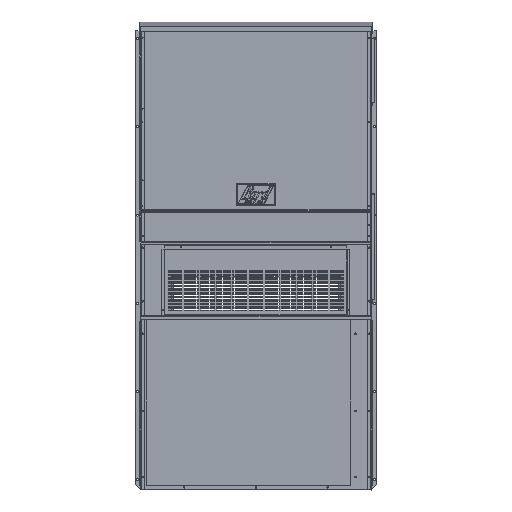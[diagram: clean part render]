
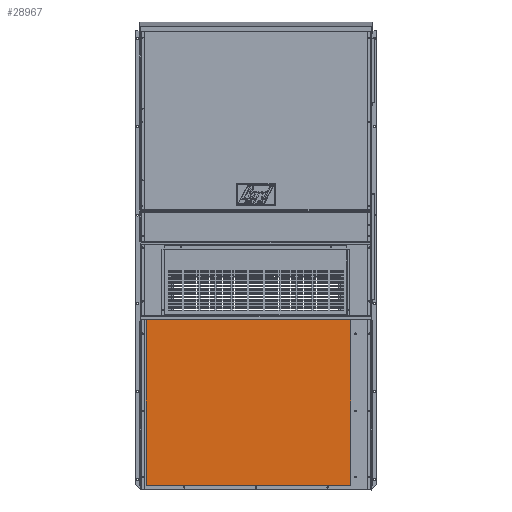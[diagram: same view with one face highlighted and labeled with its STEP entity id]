
A CAD part, top view. The second image highlights one B-rep face of the part: STEP entity #28967.
In plain terms, the highlighted planar face has unit normal (0, 0, 1).
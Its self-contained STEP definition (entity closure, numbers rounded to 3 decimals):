
#1054 = LINE ( 'NONE', #134050, #39214 ) ;
#9102 = CARTESIAN_POINT ( 'NONE',  ( -19.878, 30.855, 0.141 ) ) ;
#9571 = DIRECTION ( 'NONE',  ( 1., 0., 0. ) ) ;
#21173 = VECTOR ( 'NONE', #9571, 39.37 ) ;
#21408 = LINE ( 'NONE', #38150, #136966 ) ;
#25328 = EDGE_LOOP ( 'NONE', ( #46573, #127344, #65055, #50014 ) ) ;
#28967 = ADVANCED_FACE ( 'NONE', ( #32344 ), #64899, .F. ) ;
#32344 = FACE_OUTER_BOUND ( 'NONE', #25328, .T. ) ;
#38150 = CARTESIAN_POINT ( 'NONE',  ( -19.878, 30.855, 0.141 ) ) ;
#39214 = VECTOR ( 'NONE', #80190, 39.37 ) ;
#40066 = AXIS2_PLACEMENT_3D ( 'NONE', #64368, #64014, #63921 ) ;
#42660 = LINE ( 'NONE', #9102, #21173 ) ;
#42897 = EDGE_CURVE ( 'NONE', #128195, #120090, #42660, .T. ) ;
#43089 = EDGE_CURVE ( 'NONE', #120090, #105695, #71505, .T. ) ;
#46275 = EDGE_CURVE ( 'NONE', #93584, #128195, #21408, .T. ) ;
#46573 = ORIENTED_EDGE ( 'NONE', *, *, #46275, .F. ) ;
#46642 = EDGE_CURVE ( 'NONE', #105695, #93584, #1054, .T. ) ;
#50014 = ORIENTED_EDGE ( 'NONE', *, *, #42897, .F. ) ;
#56062 = CARTESIAN_POINT ( 'NONE',  ( -19.878, 30.855, 0.141 ) ) ;
#63921 = DIRECTION ( 'NONE',  ( -1., 0., 0. ) ) ;
#64014 = DIRECTION ( 'NONE',  ( 0., 0., -1. ) ) ;
#64368 = CARTESIAN_POINT ( 'NONE',  ( 17.195, 30.855, 0.141 ) ) ;
#64899 = PLANE ( 'NONE',  #40066 ) ;
#65055 = ORIENTED_EDGE ( 'NONE', *, *, #43089, .F. ) ;
#71505 = LINE ( 'NONE', #124407, #107317 ) ;
#80190 = DIRECTION ( 'NONE',  ( -1., 0., 0. ) ) ;
#91974 = DIRECTION ( 'NONE',  ( 0., -1., 0. ) ) ;
#93584 = VERTEX_POINT ( 'NONE', #137266 ) ;
#102276 = DIRECTION ( 'NONE',  ( 0., 1., 0. ) ) ;
#105695 = VERTEX_POINT ( 'NONE', #107770 ) ;
#107317 = VECTOR ( 'NONE', #91974, 39.37 ) ;
#107770 = CARTESIAN_POINT ( 'NONE',  ( 17.195, 0.801, 0.141 ) ) ;
#113347 = CARTESIAN_POINT ( 'NONE',  ( 17.195, 30.855, 0.141 ) ) ;
#120090 = VERTEX_POINT ( 'NONE', #113347 ) ;
#124407 = CARTESIAN_POINT ( 'NONE',  ( 17.195, 30.855, 0.141 ) ) ;
#127344 = ORIENTED_EDGE ( 'NONE', *, *, #46642, .F. ) ;
#128195 = VERTEX_POINT ( 'NONE', #56062 ) ;
#134050 = CARTESIAN_POINT ( 'NONE',  ( -19.878, 0.801, 0.141 ) ) ;
#136966 = VECTOR ( 'NONE', #102276, 39.37 ) ;
#137266 = CARTESIAN_POINT ( 'NONE',  ( -19.878, 0.801, 0.141 ) ) ;
